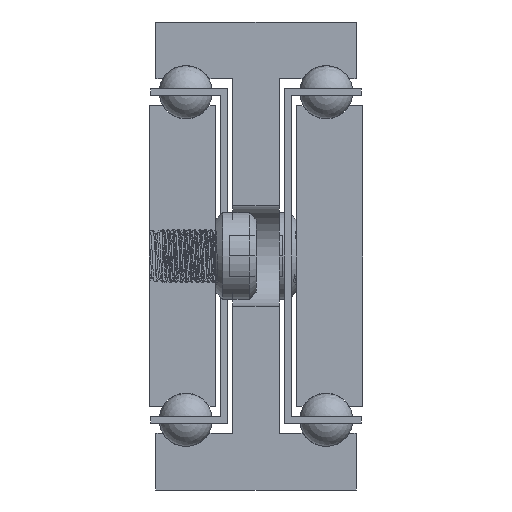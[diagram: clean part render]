
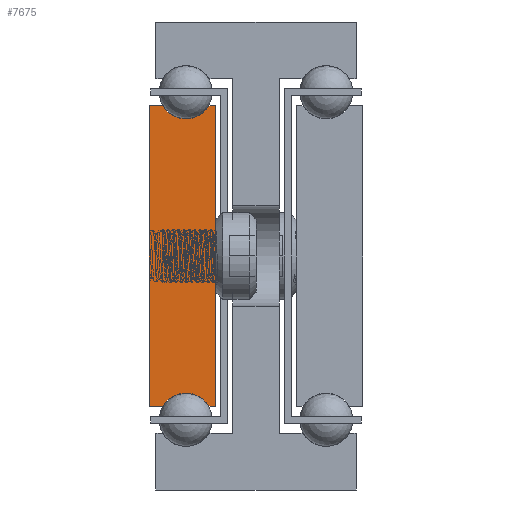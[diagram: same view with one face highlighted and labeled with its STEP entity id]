
A CAD part, front view. The second image highlights one B-rep face of the part: STEP entity #7675.
In plain terms, the highlighted planar face has unit normal (0, -1, 0).
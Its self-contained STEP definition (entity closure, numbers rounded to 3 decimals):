
#1277=CIRCLE('',#8279,4.);
#1279=CIRCLE('',#8285,4.);
#1969=FACE_OUTER_BOUND('',#2469,.T.);
#2469=EDGE_LOOP('',(#6086,#6087,#6088,#6089,#6090,#6091,#6092,#6093));
#3348=LINE('',#99049,#3560);
#3351=LINE('',#99055,#3563);
#3355=LINE('',#99067,#3567);
#3358=LINE('',#99073,#3570);
#3361=LINE('',#99079,#3573);
#3365=LINE('',#99089,#3577);
#3560=VECTOR('',#9298,1.);
#3563=VECTOR('',#9303,1.);
#3567=VECTOR('',#9315,1.);
#3570=VECTOR('',#9320,1.);
#3573=VECTOR('',#9325,1.);
#3577=VECTOR('',#9337,1.);
#3860=VERTEX_POINT('',#99046);
#3861=VERTEX_POINT('',#99048);
#3863=VERTEX_POINT('',#99054);
#3865=VERTEX_POINT('',#99060);
#3867=VERTEX_POINT('',#99066);
#3869=VERTEX_POINT('',#99072);
#3871=VERTEX_POINT('',#99078);
#3873=VERTEX_POINT('',#99084);
#4842=EDGE_CURVE('',#3861,#3860,#3348,.T.);
#4845=EDGE_CURVE('',#3863,#3861,#3351,.T.);
#4848=EDGE_CURVE('',#3865,#3863,#1277,.T.);
#4851=EDGE_CURVE('',#3867,#3865,#3355,.T.);
#4854=EDGE_CURVE('',#3869,#3867,#3358,.T.);
#4857=EDGE_CURVE('',#3871,#3869,#3361,.T.);
#4860=EDGE_CURVE('',#3873,#3871,#1279,.T.);
#4863=EDGE_CURVE('',#3860,#3873,#3365,.T.);
#6086=ORIENTED_EDGE('',*,*,#4863,.T.);
#6087=ORIENTED_EDGE('',*,*,#4860,.T.);
#6088=ORIENTED_EDGE('',*,*,#4857,.T.);
#6089=ORIENTED_EDGE('',*,*,#4854,.T.);
#6090=ORIENTED_EDGE('',*,*,#4851,.T.);
#6091=ORIENTED_EDGE('',*,*,#4848,.T.);
#6092=ORIENTED_EDGE('',*,*,#4845,.T.);
#6093=ORIENTED_EDGE('',*,*,#4842,.T.);
#7529=PLANE('',#8288);
#7675=ADVANCED_FACE('',(#1969),#7529,.T.);
#8279=AXIS2_PLACEMENT_3D('',#99061,#9309,#9310);
#8285=AXIS2_PLACEMENT_3D('',#99085,#9331,#9332);
#8288=AXIS2_PLACEMENT_3D('',#99091,#9340,#9341);
#9298=DIRECTION('',(0.,0.,-1.));
#9303=DIRECTION('',(-1.,0.,0.));
#9309=DIRECTION('center_axis',(0.,1.,0.));
#9310=DIRECTION('ref_axis',(-0.866,0.,-0.5));
#9315=DIRECTION('',(-1.,0.,0.));
#9320=DIRECTION('',(0.,0.,1.));
#9325=DIRECTION('',(1.,0.,0.));
#9331=DIRECTION('center_axis',(0.,1.,0.));
#9332=DIRECTION('ref_axis',(0.866,0.,0.5));
#9337=DIRECTION('',(1.,0.,0.));
#9340=DIRECTION('center_axis',(0.,-1.,0.));
#9341=DIRECTION('ref_axis',(1.,0.,0.));
#99046=CARTESIAN_POINT('',(-1107.639,-1008.481,-57.5));
#99048=CARTESIAN_POINT('',(-1107.639,-1008.481,-12.5));
#99049=CARTESIAN_POINT('',(-1107.639,-1008.481,-57.5));
#99054=CARTESIAN_POINT('',(-1105.603,-1008.481,-12.5));
#99055=CARTESIAN_POINT('',(-1107.639,-1008.481,-12.5));
#99060=CARTESIAN_POINT('',(-1098.675,-1008.481,-12.5));
#99061=CARTESIAN_POINT('Origin',(-1102.139,-1008.481,-10.5));
#99066=CARTESIAN_POINT('',(-1097.639,-1008.481,-12.5));
#99067=CARTESIAN_POINT('',(-1098.675,-1008.481,-12.5));
#99072=CARTESIAN_POINT('',(-1097.639,-1008.481,-57.5));
#99073=CARTESIAN_POINT('',(-1097.639,-1008.481,-12.5));
#99078=CARTESIAN_POINT('',(-1098.675,-1008.481,-57.5));
#99079=CARTESIAN_POINT('',(-1097.639,-1008.481,-57.5));
#99084=CARTESIAN_POINT('',(-1105.603,-1008.481,-57.5));
#99085=CARTESIAN_POINT('Origin',(-1102.139,-1008.481,-59.5));
#99089=CARTESIAN_POINT('',(-1105.603,-1008.481,-57.5));
#99091=CARTESIAN_POINT('Origin',(-1102.645,-1008.481,-35.));
